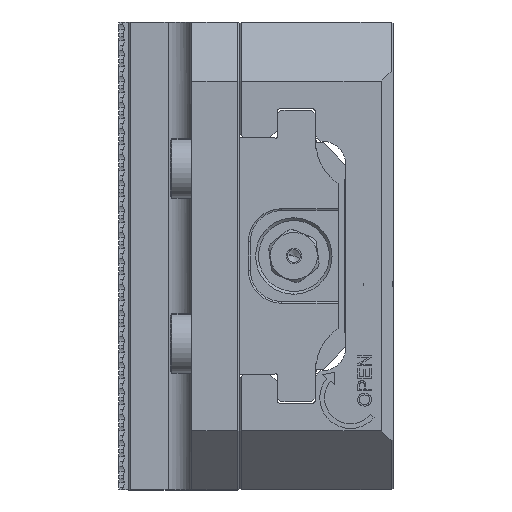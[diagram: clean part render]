
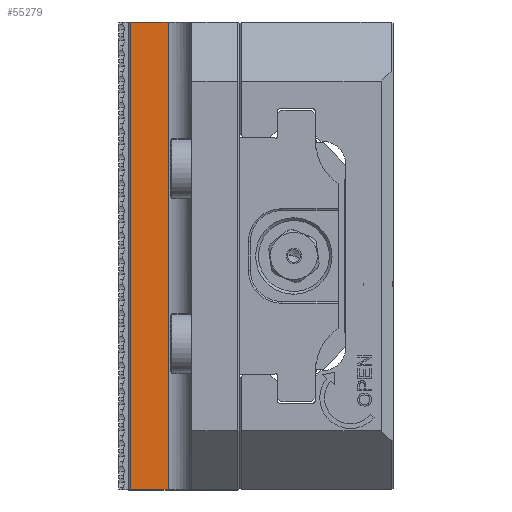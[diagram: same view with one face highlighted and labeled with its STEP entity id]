
A CAD part, left-side view. The second image highlights one B-rep face of the part: STEP entity #55279.
In plain terms, the highlighted planar face has unit normal (-1, 0, 0) as drawn and (1, 0, 0) by its records, which use the part's own axes.
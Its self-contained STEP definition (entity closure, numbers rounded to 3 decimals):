
#1013 = CARTESIAN_POINT ( 'NONE',  ( -3.746, 2.921, -62.865 ) ) ;
#3231 = VERTEX_POINT ( 'NONE', #162039 ) ;
#13320 = FACE_OUTER_BOUND ( 'NONE', #95887, .T. ) ;
#18229 = PLANE ( 'NONE',  #27548 ) ;
#27548 = AXIS2_PLACEMENT_3D ( 'NONE', #56559, #108506, #31180 ) ;
#31180 = DIRECTION ( 'NONE',  ( 0., -1., 0. ) ) ;
#36069 = CARTESIAN_POINT ( 'NONE',  ( -3.746, 2.921, 62.865 ) ) ;
#38212 = EDGE_CURVE ( 'NONE', #53102, #122610, #43523, .T. ) ;
#43523 = LINE ( 'NONE', #123277, #112193 ) ;
#46022 = DIRECTION ( 'NONE',  ( 0., 1., 0. ) ) ;
#49617 = DIRECTION ( 'NONE',  ( 0., 0., -1. ) ) ;
#53102 = VERTEX_POINT ( 'NONE', #36069 ) ;
#55279 = ADVANCED_FACE ( 'NONE', ( #13320 ), #18229, .F. ) ;
#55978 = VECTOR ( 'NONE', #49617, 1000. ) ;
#56559 = CARTESIAN_POINT ( 'NONE',  ( -3.747, 13.629, 62.865 ) ) ;
#57762 = LINE ( 'NONE', #105218, #88056 ) ;
#58205 = EDGE_CURVE ( 'NONE', #3231, #122610, #57762, .T. ) ;
#66715 = ORIENTED_EDGE ( 'NONE', *, *, #157905, .T. ) ;
#67067 = CARTESIAN_POINT ( 'NONE',  ( -3.747, 13.629, -62.865 ) ) ;
#70493 = ORIENTED_EDGE ( 'NONE', *, *, #38212, .F. ) ;
#73896 = VECTOR ( 'NONE', #80116, 1000. ) ;
#77834 = ORIENTED_EDGE ( 'NONE', *, *, #58205, .T. ) ;
#80116 = DIRECTION ( 'NONE',  ( 0., 1., 0. ) ) ;
#80935 = DIRECTION ( 'NONE',  ( 0., 0., 1. ) ) ;
#82024 = LINE ( 'NONE', #67067, #73896 ) ;
#85363 = ORIENTED_EDGE ( 'NONE', *, *, #104431, .T. ) ;
#88056 = VECTOR ( 'NONE', #80935, 1000. ) ;
#95887 = EDGE_LOOP ( 'NONE', ( #66715, #77834, #70493, #85363 ) ) ;
#100596 = VERTEX_POINT ( 'NONE', #1013 ) ;
#104431 = EDGE_CURVE ( 'NONE', #53102, #100596, #154734, .T. ) ;
#105218 = CARTESIAN_POINT ( 'NONE',  ( -3.747, 13.121, 62.865 ) ) ;
#108506 = DIRECTION ( 'NONE',  ( -1., 0., 0. ) ) ;
#112193 = VECTOR ( 'NONE', #46022, 1000. ) ;
#122610 = VERTEX_POINT ( 'NONE', #130729 ) ;
#123277 = CARTESIAN_POINT ( 'NONE',  ( -3.747, 13.629, 62.865 ) ) ;
#126843 = CARTESIAN_POINT ( 'NONE',  ( -3.746, 2.921, 62.865 ) ) ;
#130729 = CARTESIAN_POINT ( 'NONE',  ( -3.747, 13.121, 62.865 ) ) ;
#154734 = LINE ( 'NONE', #126843, #55978 ) ;
#157905 = EDGE_CURVE ( 'NONE', #100596, #3231, #82024, .T. ) ;
#162039 = CARTESIAN_POINT ( 'NONE',  ( -3.747, 13.121, -62.865 ) ) ;
